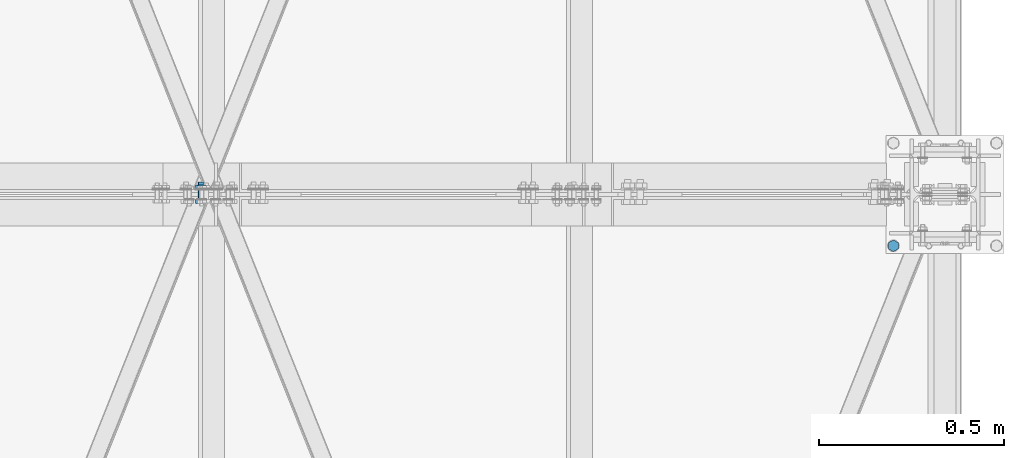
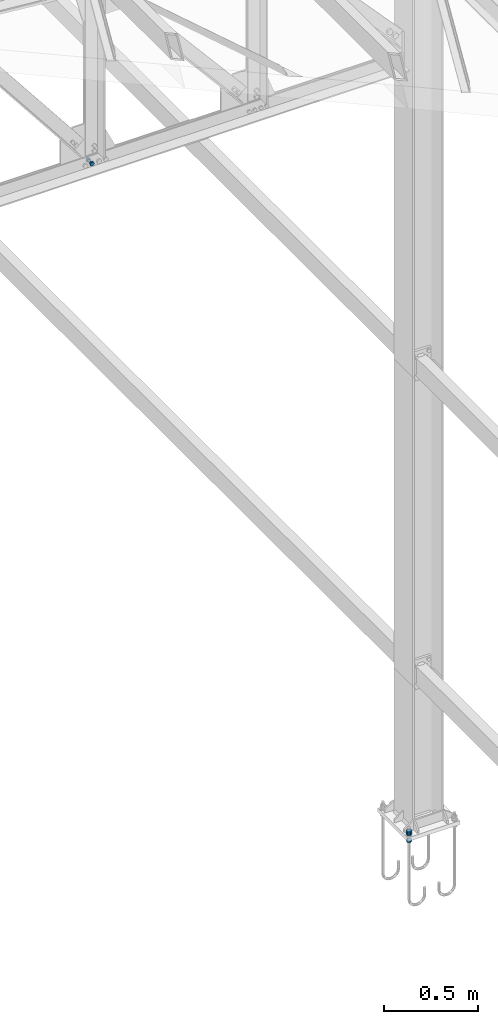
# One storey, part 107 of 251: 6 mechanical fasteners.
"""IFC4 building model written with IfcOpenShell, lengths in metres."""

from ifc_helpers import new_model, si_unit, frame, origin_with_axes, place, context, project, spatial, polyline, outline, extrude, type_object, element, save


model = new_model("IFC4")

# Units and contexts
model_context = context("Model", 3, precision=1e-05, world=origin_with_axes())
ifc_project = project(units=[si_unit("LENGTHUNIT", "METRE"), si_unit("AREAUNIT", "SQUARE_METRE"), si_unit("VOLUMEUNIT", "CUBIC_METRE"), si_unit("MASSUNIT", "GRAM", prefix="KILO"), si_unit("TIMEUNIT", "SECOND"), si_unit("PLANEANGLEUNIT", "RADIAN"), si_unit("SOLIDANGLEUNIT", "STERADIAN"), si_unit("THERMODYNAMICTEMPERATUREUNIT", "DEGREE_CELSIUS")], contexts=[model_context])

# Site, building, storey
placement_1 = place(None, origin_with_axes())
site = spatial("IfcSite", under=ifc_project, at=placement_1, Name="Italia", CompositionType="ELEMENT")
building = spatial("IfcBuilding", under=site, at=placement_1, Name="Deposito", CompositionType="ELEMENT")
storey = spatial("IfcBuildingStorey", under=building, at=placement_1, Name="Storey 0", CompositionType="ELEMENT", Elevation=0.0)

# Mechanical fasteners
mechanical_fastener_type_1 = type_object("IfcMechanicalFastenerType", Name="Collegamenti 0014_-001 0016_-054 0018_-056 0032_-002 0033_-058 0047_-003 0048_-060 0062_-004 0063_-005 0079_-008", PredefinedType="BOLT")
placement_2 = place(placement_1, origin_with_axes())
mechanical_fastener_1_placement = place(placement_2, origin_with_axes())
element("IfcMechanicalFastener", 1, at=mechanical_fastener_1_placement, inside=storey, type_object=mechanical_fastener_type_1, Name="Collegamenti 0014_-001 0016_-054 0018_-056 0032_-002 0033_-058 0047_-003 0048_-060 0062_-004 0063_-005 0079_-008", NominalDiameter=0.0159998, context=model_context, shape_type="SweptSolid", body=[
    extrude(outline(polyline([(0.0, 0.0), (-0.0159998, 0.0), (-0.0240002, 0.0138569), (-0.0159998, 0.0277138), (0.0, 0.0277138), (0.0079999, 0.0138569), (0.0, 0.0)])), frame((19.8744, 4.869, 0.079), z_axis=(0.0, 0.0, 1.0), x_axis=(0.0, 1.0, 0.0)), (0.0, 0.0, 1.0), 0.0128),
])
mechanical_fastener_type_2 = type_object("IfcMechanicalFastenerType", Name="Collegamenti 0014_-001 0016_-054 0018_-056 0032_-002 0033_-058 0047_-003 0048_-060 0062_-004 0063_-005 0079_-008", PredefinedType="BOLT")
mechanical_fastener_2_placement = place(placement_2, origin_with_axes())
element("IfcMechanicalFastener", 2, at=mechanical_fastener_2_placement, inside=storey, type_object=mechanical_fastener_type_2, Name="Collegamenti 0014_-001 0016_-054 0018_-056 0032_-002 0033_-058 0047_-003 0048_-060 0062_-004 0063_-005 0079_-008", NominalDiameter=0.0159998, context=model_context, shape_type="SweptSolid", body=[
    extrude(outline(polyline([(0.0, 0.0), (-0.0159998, 0.0), (-0.0240002, 0.0138569), (-0.0159998, 0.0277138), (0.0, 0.0277138), (0.0079999, 0.0138569), (0.0, 0.0)])), frame((19.8744, 4.869, 0.0918), z_axis=(0.0, 0.0, 1.0), x_axis=(0.0, 1.0, 0.0)), (0.0, 0.0, 1.0), 0.0128),
])
mechanical_fastener_type_3 = type_object("IfcMechanicalFastenerType", Name="Collegamenti 0014_-001 0016_-054 0018_-056 0032_-002 0033_-058 0047_-003 0048_-060 0062_-004 0063_-005 0079_-008", PredefinedType="BOLT")
mechanical_fastener_3_placement = place(placement_2, origin_with_axes())
element("IfcMechanicalFastener", 3, at=mechanical_fastener_3_placement, inside=storey, type_object=mechanical_fastener_type_3, Name="Collegamenti 0014_-001 0016_-054 0018_-056 0032_-002 0033_-058 0047_-003 0048_-060 0062_-004 0063_-005 0079_-008", NominalDiameter=0.0159998, context=model_context, shape_type="SweptSolid", body=[
    extrude(outline(polyline([(0.0, 0.0), (-0.0159998, 0.0), (-0.0240002, 0.0138569), (-0.0159998, 0.0277138), (0.0, 0.0277138), (0.0079999, 0.0138569), (0.0, 0.0)])), frame((19.8744, 4.869, 0.0332), z_axis=(0.0, 0.0, 1.0), x_axis=(0.0, 1.0, 0.0)), (0.0, 0.0, 1.0), 0.0128),
])
mechanical_fastener_type_4 = type_object("IfcMechanicalFastenerType", Name="Reticolare 3", PredefinedType="BOLT")
mechanical_fastener_4_placement = place(placement_2, origin_with_axes())
element("IfcMechanicalFastener", 4, at=mechanical_fastener_4_placement, inside=storey, type_object=mechanical_fastener_type_4, Name="Reticolare 3", NominalDiameter=0.0139997, context=model_context, shape_type="SweptSolid", body=[
    extrude(outline(polyline([(0.0, 0.0), (-0.0139999, 0.0), (-0.0209999, 0.0121241), (-0.0139999, 0.0242486), (0.0, 0.0242486), (0.00699997, 0.0121241), (0.0, 0.0)])), frame((17.9926, 4.987, 4.99688), z_axis=(0.0, -1.0, 0.0), x_axis=(1.0, 0.0, 0.0)), (0.0, 0.0, 1.0), 0.0112),
])
mechanical_fastener_type_5 = type_object("IfcMechanicalFastenerType", Name="Reticolare 3", PredefinedType="BOLT")
mechanical_fastener_5_placement = place(placement_2, origin_with_axes())
element("IfcMechanicalFastener", 5, at=mechanical_fastener_5_placement, inside=storey, type_object=mechanical_fastener_type_5, Name="Reticolare 3", NominalDiameter=0.014, context=model_context, shape_type="SweptSolid", body=[
    extrude(outline(polyline([(0.0, 0.0), (-0.000238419, -0.0018115), (-0.000938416, -0.00349998), (-0.0020504, -0.00494957), (-0.00349998, -0.00606203), (-0.00518799, -0.00676155), (-0.00699997, -0.00699997), (-0.00881195, -0.00676155), (-0.0105, -0.00606203), (-0.0119495, -0.00494957), (-0.0130615, -0.00349998), (-0.0137615, -0.0018115), (-0.0139999, 0.0), (-0.0137615, 0.0018115), (-0.0130615, 0.00349998), (-0.0119495, 0.00494957), (-0.0105, 0.00606203), (-0.00881195, 0.00676155), (-0.00699997, 0.00699997), (-0.00518799, 0.00676155), (-0.00349998, 0.00606203), (-0.0020504, 0.00494957), (-0.000938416, 0.00349998), (-0.000238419, 0.0018115), (0.0, 0.0)])), frame((17.9926, 5.034, 5.009), z_axis=(0.0, -1.0, 0.0), x_axis=(1.0, 0.0, 0.0)), (0.0, 0.0, 1.0), 0.0469999),
])
mechanical_fastener_type_6 = type_object("IfcMechanicalFastenerType", Name="Reticolare 3", PredefinedType="BOLT")
mechanical_fastener_6_placement = place(placement_2, origin_with_axes())
element("IfcMechanicalFastener", 6, at=mechanical_fastener_6_placement, inside=storey, type_object=mechanical_fastener_type_6, Name="Reticolare 3", NominalDiameter=0.0139997, context=model_context, shape_type="SweptSolid", body=[
    extrude(outline(polyline([(0.0, 0.0), (-0.0139999, 0.0), (-0.0209999, 0.0121241), (-0.0139999, 0.0242486), (0.0, 0.0242486), (0.00699997, 0.0121241), (0.0, 0.0)])), frame((17.9926, 5.0262, 4.99688), z_axis=(0.0, -1.0, 0.0), x_axis=(1.0, 0.0, 0.0)), (0.0, 0.0, 1.0), 0.0112),
])

save(model, "model.ifc")
